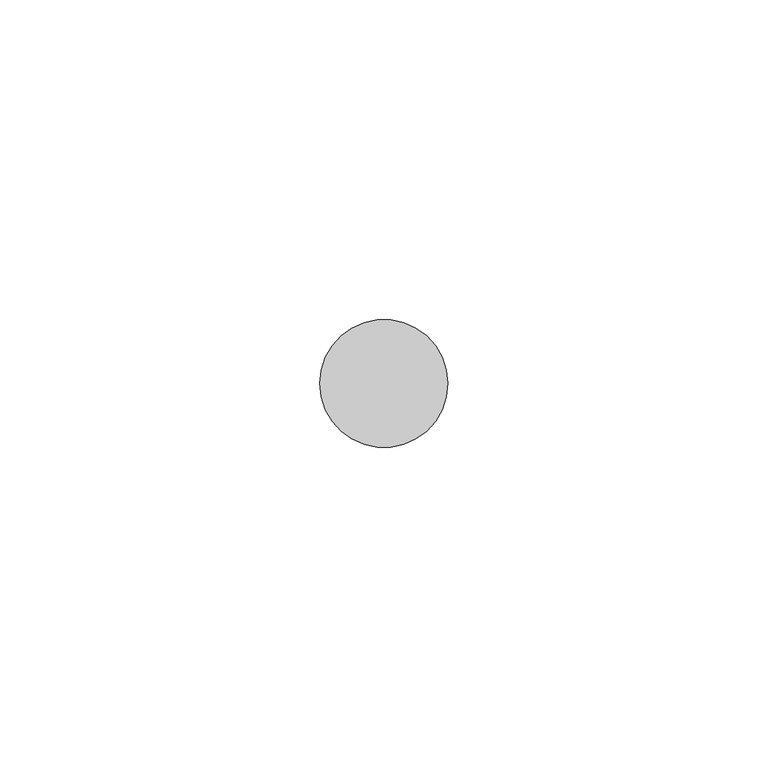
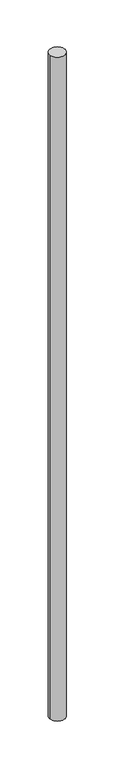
"""IFC4 building model written with IfcOpenShell, lengths in millimetres: member geometry, Импост круглого сечения : Радиус 25 мм."""

from ifc_helpers import new_model, si_unit, point, frame, frame_2d, origin, place, context, project, spatial, circle_curve, trimmed, segment, composite_curve, outline, extrude, source, transform, mapped, element, save


def member_333024e2(model_context):
    return source(origin(), model_context, "Body", "SweptSolid", [
        extrude(outline(composite_curve([segment(trimmed(circle_curve(frame_2d((-10.0, 0.0)), 10.0), [point((0.0, 0.0))], [point((-20.0, 0.0))], False, "CARTESIAN"), True, "CONTINUOUS"), segment(trimmed(circle_curve(frame_2d((-10.0, 0.0)), 10.0), [point((-20.0, 0.0))], [point((0.0, 0.0))], False, "CARTESIAN"), True, "CONTINUOUS")], self_intersect=False)), frame((0.0, 0.0, -900.0000003), z_axis=(0.0, 0.0, 1.0), x_axis=(1.0, 0.0, 0.0)), (0.0, 0.0, 1.0), 900.0000003),
    ])


if __name__ == "__main__":
    model = new_model("IFC4")
    model_context = context("Model", 3, world=origin())
    ifc_project = project(units=[si_unit("LENGTHUNIT", "METRE", prefix="MILLI")], contexts=[model_context])
    site = spatial("IfcSite", under=ifc_project)
    building = spatial("IfcBuilding", under=site)
    placement = place(None, origin())
    member_shape = member_333024e2(model_context)
    element("IfcMember", 1, ObjectType="Импост круглого сечения : Радиус 25 мм", at=placement, inside=building, context=model_context, shape_type="MappedRepresentation", body=[
        mapped(member_shape, transform((0.0, 0.0, 0.0), x_axis=(1.0, 0.0, 0.0), y_axis=(0.0, 1.0, 0.0), z_axis=(0.0, 0.0, 1.0))),
    ])
    save(model, "model.ifc")
